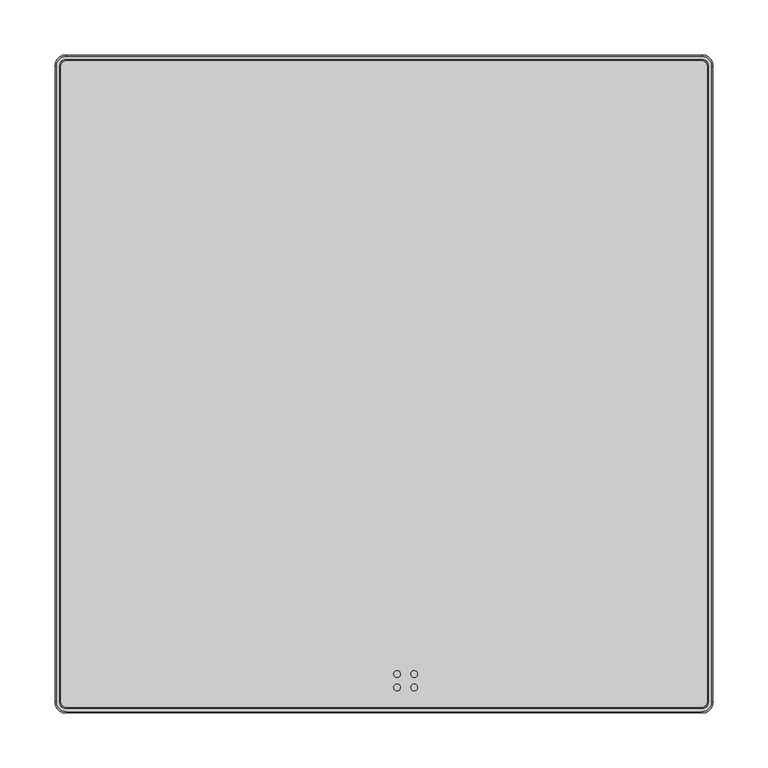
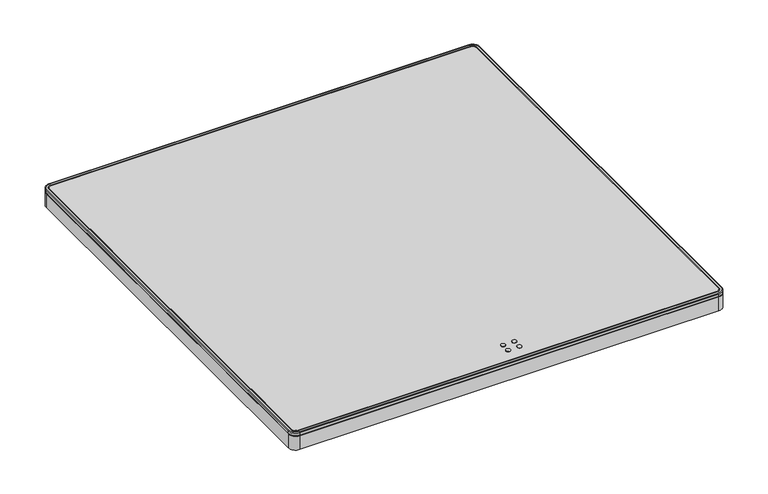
"""IFC4 building model written with IfcOpenShell, lengths in millimetres: proxy geometry, Glas-Kochfläche-6fach eingefasst-Kante : 576  x 516."""

import ifcopenshell
import ifcopenshell.guid

model = None  # the IFC model being written
_history = None  # IfcOwnerHistory: only IFC2X3 demands one
_inside = {}  # id of a spatial element -> (the spatial element, [elements in it])
_under = {}  # id of a project, library or spatial element -> (it, [spatial elements below it])
_declared = {}  # id of a project -> (the project, [libraries it declares])
_typed = {}  # id of a type object -> (the type object, [elements of that type])
_made_of = {}  # id of a material, layer set ... -> (it, [elements and type objects made of it])


def new_model(schema):
    """Start an empty IFC model of exactly this schema.

    Asked for "IFC4X3", IfcOpenShell would pick the latest addendum, in which some entities
    have other attributes; the version numbers below select the first issue.
    IFC2X3 requires an IfcOwnerHistory on every rooted entity: one is made here for all.
    """
    global model, _history
    if schema == "IFC4X3":
        model = ifcopenshell.file(schema_version=(4, 3, 0, 0))
    else:
        model = ifcopenshell.file(schema=schema)
    _inside.clear()
    _under.clear()
    _declared.clear()
    _typed.clear()
    _made_of.clear()
    _history = None
    if model.schema == "IFC2X3":
        org = make("IfcOrganization", Name="unknown")
        user = make(
            "IfcPersonAndOrganization",
            ThePerson=make("IfcPerson", FamilyName="unknown"),
            TheOrganization=org,
        )
        app = make(
            "IfcApplication",
            ApplicationDeveloper=org,
            Version="unknown",
            ApplicationFullName="unknown",
            ApplicationIdentifier="unknown",
        )
        _history = make(
            "IfcOwnerHistory",
            OwningUser=user,
            OwningApplication=app,
            ChangeAction="ADDED",
            CreationDate=0,
        )
    return model


def make(cls, **values):
    """One entity of the class cls with the attributes given. An attribute that is None is left unset."""
    return model.create_entity(
        cls, **{name: value for name, value in values.items() if value is not None}
    )


def rooted(cls, **values):
    """An entity with a GlobalId (a new one), such as an element, a storey or a relation."""
    return make(cls, GlobalId=ifcopenshell.guid.new(), OwnerHistory=_history, **values)


def si_unit(unit_type, name, prefix=None):
    """IfcSIUnit, for example si_unit("LENGTHUNIT", "METRE", prefix="MILLI")."""
    return make("IfcSIUnit", UnitType=unit_type, Prefix=prefix, Name=name)


def assignment(units):
    """IfcUnitAssignment: the units of a project."""
    return None if units is None else make("IfcUnitAssignment", Units=units)


def point(xyz):
    """IfcCartesianPoint."""
    return None if xyz is None else make("IfcCartesianPoint", Coordinates=xyz)


def direction(xyz):
    """IfcDirection."""
    return None if xyz is None else make("IfcDirection", DirectionRatios=xyz)


def frame(location, z_axis=None, x_axis=None):
    """IfcAxis2Placement3D, a coordinate frame: its origin and axes. An axis left out is left unset."""
    return make(
        "IfcAxis2Placement3D",
        Location=point(location),
        Axis=direction(z_axis),
        RefDirection=direction(x_axis),
    )


def frame_2d(location, x_axis=None):
    """IfcAxis2Placement2D, a coordinate frame in the plane: its origin and x axis."""
    return make(
        "IfcAxis2Placement2D", Location=point(location), RefDirection=direction(x_axis)
    )


def origin():
    """The frame at (0, 0, 0) with its axes left unset."""
    return frame((0.0, 0.0, 0.0))


def origin_with_axes():
    """The frame at (0, 0, 0) with the z axis (0, 0, 1) and the x axis (1, 0, 0) written out."""
    return frame((0.0, 0.0, 0.0), z_axis=(0.0, 0.0, 1.0), x_axis=(1.0, 0.0, 0.0))


def place(relative_to, where):
    """IfcLocalPlacement: puts the frame where relative to a parent placement (None: the world)."""
    return make(
        "IfcLocalPlacement", PlacementRelTo=relative_to, RelativePlacement=where
    )


def context(
    kind, dimensions, precision=None, world=None, true_north=None, identifier=None
):
    """IfcGeometricRepresentationContext, for example the 3D "Model" context."""
    return make(
        "IfcGeometricRepresentationContext",
        ContextIdentifier=identifier,
        ContextType=kind,
        CoordinateSpaceDimension=dimensions,
        Precision=precision,
        WorldCoordinateSystem=world,
        TrueNorth=true_north,
    )


def project(units=None, contexts=None):
    """IfcProject with its units and contexts."""
    return rooted(
        "IfcProject",
        Name="project",
        RepresentationContexts=contexts,
        UnitsInContext=assignment(units),
    )


def spatial(cls, under=None, at=None, **own):
    """A site, building, storey or space (cls), placed at a placement, below another one or the project."""
    s = rooted(cls, ObjectPlacement=at, **own)
    if under is not None:
        _under.setdefault(under.id(), (under, []))[1].append(s)
    return s


def polyline(points):
    """IfcPolyline through the points."""
    return make("IfcPolyline", Points=[point(p) for p in points])


def circle_curve(where, radius):
    """IfcCircle in the frame where."""
    return make("IfcCircle", Position=where, Radius=radius)


def ellipse_curve(where, semi_axis1, semi_axis2):
    """IfcEllipse in the frame where."""
    return make(
        "IfcEllipse", Position=where, SemiAxis1=semi_axis1, SemiAxis2=semi_axis2
    )


def trimmed(basis, trim1, trim2, sense, master):
    """IfcTrimmedCurve: the piece of a basis curve between two trims."""
    return make(
        "IfcTrimmedCurve",
        BasisCurve=basis,
        Trim1=trim1,
        Trim2=trim2,
        SenseAgreement=sense,
        MasterRepresentation=master,
    )


def segment(curve, same_sense, transition):
    """IfcCompositeCurveSegment."""
    return make(
        "IfcCompositeCurveSegment",
        Transition=transition,
        SameSense=same_sense,
        ParentCurve=curve,
    )


def composite_curve(segments, self_intersect=None):
    """IfcCompositeCurve: segments joined end to end."""
    return make("IfcCompositeCurve", Segments=segments, SelfIntersect=self_intersect)


def outline(outer, holes=None, kind="AREA"):
    """IfcArbitraryClosedProfileDef: a profile drawn as a closed curve; with holes, ...WithVoids."""
    if holes is None:
        return make("IfcArbitraryClosedProfileDef", ProfileType=kind, OuterCurve=outer)
    return make(
        "IfcArbitraryProfileDefWithVoids",
        ProfileType=kind,
        OuterCurve=outer,
        InnerCurves=holes,
    )


def extrude(swept, where, along, depth):
    """IfcExtrudedAreaSolid: the profile swept, set in the frame where, extruded along a direction by depth."""
    return make(
        "IfcExtrudedAreaSolid",
        SweptArea=swept,
        Position=where,
        ExtrudedDirection=direction(along),
        Depth=depth,
    )


def shape(context_of_items, identifier, shape_type, items):
    """IfcShapeRepresentation: the items that make up one representation, for example the "Body"."""
    return make(
        "IfcShapeRepresentation",
        ContextOfItems=context_of_items,
        RepresentationIdentifier=identifier,
        RepresentationType=shape_type,
        Items=items,
    )


def source(mapping_origin, context_of_items, identifier, shape_type, items):
    """IfcRepresentationMap: a shape defined once, which mapped items show again and again."""
    return make(
        "IfcRepresentationMap",
        MappingOrigin=mapping_origin,
        MappedRepresentation=shape(context_of_items, identifier, shape_type, items),
    )


def transform(
    local_origin,
    x_axis=None,
    y_axis=None,
    z_axis=None,
    scale=None,
    scale2=None,
    scale3=None,
    uniform=True,
):
    """IfcCartesianTransformationOperator3D, or its non-uniform kind. x_axis, y_axis, z_axis: its Axis1, 2, 3."""
    if uniform:
        return make(
            "IfcCartesianTransformationOperator3D",
            Axis1=direction(x_axis),
            Axis2=direction(y_axis),
            LocalOrigin=point(local_origin),
            Scale=scale,
            Axis3=direction(z_axis),
        )
    return make(
        "IfcCartesianTransformationOperator3DnonUniform",
        Axis1=direction(x_axis),
        Axis2=direction(y_axis),
        LocalOrigin=point(local_origin),
        Scale=scale,
        Axis3=direction(z_axis),
        Scale2=scale2,
        Scale3=scale3,
    )


def mapped(mapping_source, mapping_target):
    """IfcMappedItem: shows the shape of a source again, moved by a transform."""
    return make(
        "IfcMappedItem", MappingSource=mapping_source, MappingTarget=mapping_target
    )


def made_of(thing, what):
    """Note that an element or type object is made of a material, layer set ...; save() writes the relation."""
    if what is not None:
        _made_of.setdefault(what.id(), (what, []))[1].append(thing)
    return thing


def element(
    cls,
    number,
    at=None,
    inside=None,
    cuts=None,
    type_object=None,
    material=None,
    context=None,
    identifier="Body",
    shape_type=None,
    held_by="IfcProductDefinitionShape",
    body=None,
    shapes=None,
    **own,
):
    """One element of the class cls, such as IfcWall. Its Tag is "e" and its number.

    at: its placement. inside: the storey or other place that contains it. cuts: it is an
    opening in that element (IfcRelVoidsElement). A single representation is given by context,
    identifier, shape_type and body (its items); several are given by shapes. held_by: the class
    of the entity that holds the representations. save() writes the other relations.
    """
    e = rooted(cls, Tag="e%d" % number, ObjectPlacement=at, **own)
    if body is not None:
        shapes = [shape(context, identifier, shape_type, body)]
    if shapes is not None:
        e.Representation = make(held_by, Representations=shapes)
    if inside is not None:
        _inside.setdefault(inside.id(), (inside, []))[1].append(e)
    if cuts is not None:
        rooted(
            "IfcRelVoidsElement", RelatingBuildingElement=cuts, RelatedOpeningElement=e
        )
    if type_object is not None:
        _typed.setdefault(type_object.id(), (type_object, []))[1].append(e)
    return made_of(e, material)


def aggregate(whole, parts):
    """IfcRelAggregates: a whole, such as a stair, and the parts it consists of."""
    return rooted("IfcRelAggregates", RelatingObject=whole, RelatedObjects=parts)


def save(model, path):
    """Write the relations noted so far, then the file.

    IfcRelAggregates (storeys below a building ...), IfcRelContainedInSpatialStructure (elements
    in a storey), IfcRelDefinesByType, IfcRelAssociatesMaterial and IfcRelDeclares: one each for
    every whole, place, type object, material and project.
    """
    for whole, parts in _under.values():
        aggregate(whole, parts)
    for where, things in _inside.values():
        rooted(
            "IfcRelContainedInSpatialStructure",
            RelatedElements=things,
            RelatingStructure=where,
        )
    for kind, things in _typed.values():
        rooted("IfcRelDefinesByType", RelatedObjects=things, RelatingType=kind)
    for what, things in _made_of.values():
        rooted("IfcRelAssociatesMaterial", RelatedObjects=things, RelatingMaterial=what)
    for by, libraries in _declared.values():
        rooted("IfcRelDeclares", RelatingContext=by, RelatedDefinitions=libraries)
    model.write(path)


def plane_surface(at):
    """IfcPlane: the flat surface through the origin of the frame at, square to its z axis."""
    return make("IfcPlane", Position=at)


def cylinder_surface(at, radius):
    """IfcCylindricalSurface: all points at the distance radius from the z axis of the frame at."""
    return make("IfcCylindricalSurface", Position=at, Radius=radius)


def revolved_surface(curve, axis_point, axis_direction):
    """IfcSurfaceOfRevolution: the curve turned about the line through axis_point along axis_direction."""
    return make(
        "IfcSurfaceOfRevolution",
        SweptCurve=make("IfcArbitraryOpenProfileDef", ProfileType="CURVE", Curve=curve),
        AxisPosition=make("IfcAxis1Placement", Location=point(axis_point), Axis=direction(axis_direction)),
    )


def advanced_brep(points, edges, surfaces, faces):
    """IfcAdvancedBrep: a solid bounded by faces that lie on surfaces and meet in shared edges.

    An edge is (start, end): straight between two places in points (the first is 0);
    or (start, end, curve); or (start, end, curve, False) where it runs against its curve.
    A face is (place in surfaces, loops), or (place, loops, False) where it looks against
    its surface's normal. A loop lists edges by number (the first is 1), with a minus sign
    where the edge is run from its end to its start. The first loop is the outer one.
    """
    corners = [point(p) for p in points]
    vertices = [make("IfcVertexPoint", VertexGeometry=c) for c in corners]
    made = []
    for start, end, *more in edges:
        made.append(
            make(
                "IfcEdgeCurve",
                EdgeStart=vertices[start],
                EdgeEnd=vertices[end],
                EdgeGeometry=more[0] if more else make("IfcPolyline", Points=[corners[start], corners[end]]),
                SameSense=more[1] if len(more) > 1 else True,
            )
        )
    hull = []
    for where, loops, *sense in faces:
        bounds = []
        for j, loop in enumerate(loops):
            ring = [make("IfcOrientedEdge", EdgeElement=made[abs(k) - 1], Orientation=k > 0) for k in loop]
            bounds.append(
                make(
                    "IfcFaceOuterBound" if j == 0 else "IfcFaceBound",
                    Bound=make("IfcEdgeLoop", EdgeList=ring),
                    Orientation=True,
                )
            )
        hull.append(make("IfcAdvancedFace", Bounds=bounds, FaceSurface=surfaces[where], SameSense=sense[0] if sense else True))
    return make("IfcAdvancedBrep", Outer=make("IfcClosedShell", CfsFaces=hull))


def electrical_equipment_621d5f77(model_context):
    return source(origin(), model_context, "Body", "SolidModel", [
        extrude(outline(composite_curve([segment(polyline([(288.5, -298.5), (-288.5, -298.5)]), True, "CONTINUOUS"), segment(trimmed(circle_curve(frame_2d((-288.5, -288.5)), 10.0), [point((-288.5, -298.5))], [point((-298.5, -288.5))], False, "CARTESIAN"), True, "CONTINUOUS"), segment(polyline([(-298.5, -288.5), (-298.5, 288.5)]), True, "CONTINUOUS"), segment(trimmed(circle_curve(frame_2d((-288.5, 288.5)), 10.0), [point((-298.5, 288.5))], [point((-288.5, 298.5))], False, "CARTESIAN"), True, "CONTINUOUS"), segment(polyline([(-288.5, 298.5), (288.5, 298.5)]), True, "CONTINUOUS"), segment(trimmed(circle_curve(frame_2d((288.5, 288.5)), 10.0), [point((288.5, 298.5))], [point((298.5, 288.5))], False, "CARTESIAN"), True, "CONTINUOUS"), segment(polyline([(298.5, 288.5), (298.5, -288.5)]), True, "CONTINUOUS"), segment(trimmed(circle_curve(frame_2d((288.5, -288.5)), 10.0), [point((298.5, -288.5))], [point((288.5, -298.5))], False, "CARTESIAN"), True, "CONTINUOUS")], self_intersect=False)), frame((0.0, 0.0, -20.0), z_axis=(0.0, 0.0, 1.0), x_axis=(1.0, 0.0, 0.0)), (0.0, 0.0, 1.0), 20.0),
        advanced_brep(
        [(-298.5, -288.5, 1.0), (-288.5, -298.5, 1.0), (-288.5, -298.5, 4.0), (-298.5, -288.5, 4.0), (-297.5, -288.5, 0.0), (-288.5, -297.5, 0.0), (-293.5, -288.5, 4.0), (-288.5, -293.5, 4.0), (-288.5, -293.5, 0.0), (-293.5, -288.5, 0.0), (-294.5, -288.5, 5.0), (-288.5, -294.5, 5.0), (-288.5, -297.5, 5.0), (-297.5, -288.5, 5.0), (-298.5, 288.5, 4.0), (-298.5, 288.5, 1.0), (-297.5, 288.5, 0.0), (-293.5, 288.5, 0.0), (-293.5, 288.5, 4.0), (-294.5, 288.5, 5.0), (-297.5, 288.5, 5.0), (-288.5, 298.5, 1.0), (-288.5, 298.5, 4.0), (-288.5, 297.5, 0.0), (-288.5, 293.5, 4.0), (-288.5, 293.5, 0.0), (-288.5, 294.5, 5.0), (-288.5, 297.5, 5.0), (288.5, 298.5, 4.0), (288.5, 298.5, 1.0), (288.5, 297.5, 0.0), (288.5, 293.5, 0.0), (288.5, 293.5, 4.0), (288.5, 294.5, 5.0), (288.5, 297.5, 5.0), (298.5, 288.5, 1.0), (298.5, 288.5, 4.0), (297.5, 288.5, 0.0), (293.5, 288.5, 4.0), (293.5, 288.5, 0.0), (294.5, 288.5, 5.0), (297.5, 288.5, 5.0), (298.5, -288.5, 4.0), (298.5, -288.5, 1.0), (297.5, -288.5, 0.0), (293.5, -288.5, 0.0), (293.5, -288.5, 4.0), (294.5, -288.5, 5.0), (297.5, -288.5, 5.0), (288.5, -298.5, 1.0), (288.5, -298.5, 4.0), (288.5, -297.5, 0.0), (288.5, -293.5, 4.0), (288.5, -293.5, 0.0), (288.5, -294.5, 5.0), (288.5, -297.5, 5.0)],
        [
            (0, 1, circle_curve(frame((-288.5, -288.5, 1.0), z_axis=(0.0, 0.0, 1.0), x_axis=(0.0, -1.0, 0.0)), 10.0)),
            (1, 2),
            (2, 3, circle_curve(frame((-288.5, -288.5, 4.0), z_axis=(0.0, 0.0, -1.0), x_axis=(0.0, -1.0, 0.0)), 10.0)),
            (3, 0),
            (4, 5, circle_curve(frame((-288.5, -288.5, 0.0), z_axis=(0.0, 0.0, 1.0), x_axis=(0.0, -1.0, 0.0)), 9.0)),
            (5, 1, circle_curve(frame((-288.5, -297.5, 1.0), z_axis=(-1.0, 0.0, 0.0), x_axis=(0.0, -1.0, 0.0)), 1.0)),
            (0, 4, circle_curve(frame((-297.5, -288.5, 1.0), z_axis=(0.0, -1.0, 0.0), x_axis=(-1.0, 0.0, 0.0)), 1.0)),
            (6, 7, circle_curve(frame((-288.5, -288.5, 4.0), z_axis=(0.0, 0.0, 1.0), x_axis=(0.0, -1.0, 0.0)), 5.0)),
            (7, 8),
            (8, 9, circle_curve(frame((-288.5, -288.5, 0.0), z_axis=(0.0, 0.0, -1.0), x_axis=(0.0, -1.0, 0.0)), 5.0)),
            (9, 6),
            (10, 11, circle_curve(frame((-288.5, -288.5, 5.0), z_axis=(0.0, 0.0, 1.0), x_axis=(0.0, -1.0, 0.0)), 6.0)),
            (11, 7, circle_curve(frame((-288.5, -294.5, 4.0), z_axis=(-1.0, 0.0, 0.0), x_axis=(0.0, -1.0, 0.0)), 1.0)),
            (6, 10, circle_curve(frame((-294.5, -288.5, 4.0), z_axis=(0.0, -1.0, 0.0), x_axis=(-1.0, 0.0, 0.0)), 1.0)),
            (2, 12, circle_curve(frame((-288.5, -297.5, 4.0), z_axis=(-1.0, 0.0, 0.0), x_axis=(0.0, -1.0, 0.0)), 1.0)),
            (12, 13, circle_curve(frame((-288.5, -288.5, 5.0), z_axis=(0.0, 0.0, -1.0), x_axis=(0.0, -1.0, 0.0)), 9.0)),
            (13, 3, circle_curve(frame((-297.5, -288.5, 4.0), z_axis=(0.0, -1.0, 0.0), x_axis=(-1.0, 0.0, 0.0)), 1.0)),
            (3, 14),
            (14, 15),
            (15, 0),
            (15, 16, circle_curve(frame((-297.5, 288.5, 1.0), z_axis=(0.0, -1.0, 0.0), x_axis=(-1.0, 0.0, 0.0)), 1.0)),
            (16, 4),
            (9, 17),
            (17, 18),
            (18, 6),
            (18, 19, circle_curve(frame((-294.5, 288.5, 4.0), z_axis=(0.0, -1.0, 0.0), x_axis=(-1.0, 0.0, 0.0)), 1.0)),
            (19, 10),
            (13, 20),
            (20, 14, circle_curve(frame((-297.5, 288.5, 4.0), z_axis=(0.0, -1.0, 0.0), x_axis=(-1.0, 0.0, 0.0)), 1.0)),
            (21, 15, circle_curve(frame((-288.5, 288.5, 1.0), z_axis=(0.0, 0.0, 1.0), x_axis=(-1.0, 0.0, 0.0)), 10.0)),
            (14, 22, circle_curve(frame((-288.5, 288.5, 4.0), z_axis=(0.0, 0.0, -1.0), x_axis=(-1.0, 0.0, 0.0)), 10.0)),
            (22, 21),
            (23, 16, circle_curve(frame((-288.5, 288.5, 0.0), z_axis=(0.0, 0.0, 1.0), x_axis=(-1.0, 0.0, 0.0)), 9.0)),
            (21, 23, circle_curve(frame((-288.5, 297.5, 1.0), z_axis=(-1.0, 0.0, 0.0), x_axis=(0.0, 1.0, 0.0)), 1.0)),
            (24, 18, circle_curve(frame((-288.5, 288.5, 4.0), z_axis=(0.0, 0.0, 1.0), x_axis=(-1.0, 0.0, 0.0)), 5.0)),
            (17, 25, circle_curve(frame((-288.5, 288.5, 0.0), z_axis=(0.0, 0.0, -1.0), x_axis=(-1.0, 0.0, 0.0)), 5.0)),
            (25, 24),
            (26, 19, circle_curve(frame((-288.5, 288.5, 5.0), z_axis=(0.0, 0.0, 1.0), x_axis=(-1.0, 0.0, 0.0)), 6.0)),
            (24, 26, circle_curve(frame((-288.5, 294.5, 4.0), z_axis=(-1.0, 0.0, 0.0), x_axis=(0.0, 1.0, 0.0)), 1.0)),
            (20, 27, circle_curve(frame((-288.5, 288.5, 5.0), z_axis=(0.0, 0.0, -1.0), x_axis=(-1.0, 0.0, 0.0)), 9.0)),
            (27, 22, circle_curve(frame((-288.5, 297.5, 4.0), z_axis=(-1.0, 0.0, 0.0), x_axis=(0.0, 1.0, 0.0)), 1.0)),
            (22, 28),
            (28, 29),
            (29, 21),
            (29, 30, circle_curve(frame((288.5, 297.5, 1.0), z_axis=(-1.0, 0.0, 0.0), x_axis=(0.0, 1.0, 0.0)), 1.0)),
            (30, 23),
            (25, 31),
            (31, 32),
            (32, 24),
            (32, 33, circle_curve(frame((288.5, 294.5, 4.0), z_axis=(-1.0, 0.0, 0.0), x_axis=(0.0, 1.0, 0.0)), 1.0)),
            (33, 26),
            (27, 34),
            (34, 28, circle_curve(frame((288.5, 297.5, 4.0), z_axis=(-1.0, 0.0, 0.0), x_axis=(0.0, 1.0, 0.0)), 1.0)),
            (35, 29, circle_curve(frame((288.5, 288.5, 1.0), z_axis=(0.0, 0.0, 1.0), x_axis=(0.0, 1.0, 0.0)), 10.0)),
            (28, 36, circle_curve(frame((288.5, 288.5, 4.0), z_axis=(0.0, 0.0, -1.0), x_axis=(0.0, 1.0, 0.0)), 10.0)),
            (36, 35),
            (37, 30, circle_curve(frame((288.5, 288.5, 0.0), z_axis=(0.0, 0.0, 1.0), x_axis=(0.0, 1.0, 0.0)), 9.0)),
            (35, 37, circle_curve(frame((297.5, 288.5, 1.0), z_axis=(0.0, 1.0, 0.0), x_axis=(1.0, 0.0, 0.0)), 1.0)),
            (38, 32, circle_curve(frame((288.5, 288.5, 4.0), z_axis=(0.0, 0.0, 1.0), x_axis=(0.0, 1.0, 0.0)), 5.0)),
            (31, 39, circle_curve(frame((288.5, 288.5, 0.0), z_axis=(0.0, 0.0, -1.0), x_axis=(0.0, 1.0, 0.0)), 5.0)),
            (39, 38),
            (40, 33, circle_curve(frame((288.5, 288.5, 5.0), z_axis=(0.0, 0.0, 1.0), x_axis=(0.0, 1.0, 0.0)), 6.0)),
            (38, 40, circle_curve(frame((294.5, 288.5, 4.0), z_axis=(0.0, 1.0, 0.0), x_axis=(1.0, 0.0, 0.0)), 1.0)),
            (34, 41, circle_curve(frame((288.5, 288.5, 5.0), z_axis=(0.0, 0.0, -1.0), x_axis=(0.0, 1.0, 0.0)), 9.0)),
            (41, 36, circle_curve(frame((297.5, 288.5, 4.0), z_axis=(0.0, 1.0, 0.0), x_axis=(1.0, 0.0, 0.0)), 1.0)),
            (36, 42),
            (42, 43),
            (43, 35),
            (43, 44, circle_curve(frame((297.5, -288.5, 1.0), z_axis=(0.0, 1.0, 0.0), x_axis=(1.0, 0.0, 0.0)), 1.0)),
            (44, 37),
            (39, 45),
            (45, 46),
            (46, 38),
            (46, 47, circle_curve(frame((294.5, -288.5, 4.0), z_axis=(0.0, 1.0, 0.0), x_axis=(1.0, 0.0, 0.0)), 1.0)),
            (47, 40),
            (41, 48),
            (48, 42, circle_curve(frame((297.5, -288.5, 4.0), z_axis=(0.0, 1.0, 0.0), x_axis=(1.0, 0.0, 0.0)), 1.0)),
            (49, 43, circle_curve(frame((288.5, -288.5, 1.0), z_axis=(0.0, 0.0, 1.0), x_axis=(1.0, 0.0, 0.0)), 10.0)),
            (42, 50, circle_curve(frame((288.5, -288.5, 4.0), z_axis=(0.0, 0.0, -1.0), x_axis=(1.0, 0.0, 0.0)), 10.0)),
            (50, 49),
            (51, 44, circle_curve(frame((288.5, -288.5, 0.0), z_axis=(0.0, 0.0, 1.0), x_axis=(1.0, 0.0, 0.0)), 9.0)),
            (49, 51, circle_curve(frame((288.5, -297.5, 1.0), z_axis=(1.0, 0.0, 0.0), x_axis=(0.0, -1.0, 0.0)), 1.0)),
            (52, 46, circle_curve(frame((288.5, -288.5, 4.0), z_axis=(0.0, 0.0, 1.0), x_axis=(1.0, 0.0, 0.0)), 5.0)),
            (45, 53, circle_curve(frame((288.5, -288.5, 0.0), z_axis=(0.0, 0.0, -1.0), x_axis=(1.0, 0.0, 0.0)), 5.0)),
            (53, 52),
            (54, 47, circle_curve(frame((288.5, -288.5, 5.0), z_axis=(0.0, 0.0, 1.0), x_axis=(1.0, 0.0, 0.0)), 6.0)),
            (52, 54, circle_curve(frame((288.5, -294.5, 4.0), z_axis=(1.0, 0.0, 0.0), x_axis=(0.0, -1.0, 0.0)), 1.0)),
            (48, 55, circle_curve(frame((288.5, -288.5, 5.0), z_axis=(0.0, 0.0, -1.0), x_axis=(1.0, 0.0, 0.0)), 9.0)),
            (55, 50, circle_curve(frame((288.5, -297.5, 4.0), z_axis=(1.0, 0.0, 0.0), x_axis=(0.0, -1.0, 0.0)), 1.0)),
            (50, 2),
            (1, 49),
            (5, 51),
            (8, 53),
            (7, 52),
            (11, 54),
            (12, 55),
        ],
        [
            cylinder_surface(frame((-288.5, -288.5, 5.0), z_axis=(0.0, 0.0, -1.0), x_axis=(0.0, -1.0, 0.0)), 10.0),
            revolved_surface(trimmed(ellipse_curve(frame((-288.5, -297.5, 1.0), z_axis=(1.0, 0.0, 0.0), x_axis=(0.0, -1.0, 0.0)), 1.0, 1.0), [point((-288.5, -298.5, 1.0))], [point((-288.5, -297.5, 0.0))], True, "CARTESIAN"), (-288.5, -288.5, 5.0), (0.0, 0.0, -1.0)),
            revolved_surface(polyline([(-288.5, -293.5, 0.0), (-288.5, -293.5, 4.0)]), (-288.5, -288.5, 5.0), (0.0, 0.0, -1.0)),
            revolved_surface(trimmed(ellipse_curve(frame((-288.5, -294.5, 4.0), z_axis=(1.0, 0.0, 0.0), x_axis=(0.0, -1.0, 0.0)), 1.0, 1.0), [point((-288.5, -293.5, 4.0))], [point((-288.5, -294.5, 5.0))], True, "CARTESIAN"), (-288.5, -288.5, 5.0), (0.0, 0.0, -1.0)),
            revolved_surface(trimmed(ellipse_curve(frame((-288.5, -297.5, 4.0), z_axis=(1.0, 0.0, 0.0), x_axis=(0.0, -1.0, 0.0)), 1.0, 1.0), [point((-288.5, -297.5, 5.0))], [point((-288.5, -298.5, 4.0))], True, "CARTESIAN"), (-288.5, -288.5, 5.0), (0.0, 0.0, -1.0)),
            plane_surface(frame((-298.5, -288.5, 4.0), z_axis=(-1.0, 0.0, 0.0), x_axis=(0.0, 1.0, 0.0))),
            cylinder_surface(frame((-297.5, -288.5, 1.0), z_axis=(0.0, -1.0, 0.0), x_axis=(-1.0, 0.0, 0.0)), 1.0),
            plane_surface(frame((-293.5, -288.5, 0.0), z_axis=(1.0, 0.0, 0.0), x_axis=(0.0, 1.0, 0.0))),
            cylinder_surface(frame((-294.5, -288.5, 4.0), z_axis=(0.0, -1.0, 0.0), x_axis=(-1.0, 0.0, 0.0)), 1.0),
            cylinder_surface(frame((-297.5, -288.5, 4.0), z_axis=(0.0, -1.0, 0.0), x_axis=(-1.0, 0.0, 0.0)), 1.0),
            cylinder_surface(frame((-288.5, 288.5, 5.0), z_axis=(0.0, 0.0, -1.0), x_axis=(-1.0, 0.0, 0.0)), 10.0),
            revolved_surface(trimmed(ellipse_curve(frame((-297.5, 288.5, 1.0), z_axis=(0.0, -1.0, 0.0), x_axis=(-1.0, 0.0, 0.0)), 1.0, 1.0), [point((-298.5, 288.5, 1.0))], [point((-297.5, 288.5, 0.0))], True, "CARTESIAN"), (-288.5, 288.5, 5.0), (0.0, 0.0, -1.0)),
            revolved_surface(polyline([(-293.5, 288.5, 0.0), (-293.5, 288.5, 4.0)]), (-288.5, 288.5, 5.0), (0.0, 0.0, -1.0)),
            revolved_surface(trimmed(ellipse_curve(frame((-294.5, 288.5, 4.0), z_axis=(0.0, -1.0, 0.0), x_axis=(-1.0, 0.0, 0.0)), 1.0, 1.0), [point((-293.5, 288.5, 4.0))], [point((-294.5, 288.5, 5.0))], True, "CARTESIAN"), (-288.5, 288.5, 5.0), (0.0, 0.0, -1.0)),
            revolved_surface(trimmed(ellipse_curve(frame((-297.5, 288.5, 4.0), z_axis=(0.0, -1.0, 0.0), x_axis=(-1.0, 0.0, 0.0)), 1.0, 1.0), [point((-297.5, 288.5, 5.0))], [point((-298.5, 288.5, 4.0))], True, "CARTESIAN"), (-288.5, 288.5, 5.0), (0.0, 0.0, -1.0)),
            plane_surface(frame((-288.5, 298.5, 4.0), z_axis=(0.0, 1.0, 0.0), x_axis=(1.0, 0.0, 0.0))),
            cylinder_surface(frame((-288.5, 297.5, 1.0), z_axis=(-1.0, 0.0, 0.0), x_axis=(0.0, 1.0, 0.0)), 1.0),
            plane_surface(frame((-288.5, 293.5, 0.0), z_axis=(0.0, -1.0, 0.0), x_axis=(1.0, 0.0, 0.0))),
            cylinder_surface(frame((-288.5, 294.5, 4.0), z_axis=(-1.0, 0.0, 0.0), x_axis=(0.0, 1.0, 0.0)), 1.0),
            cylinder_surface(frame((-288.5, 297.5, 4.0), z_axis=(-1.0, 0.0, 0.0), x_axis=(0.0, 1.0, 0.0)), 1.0),
            cylinder_surface(frame((288.5, 288.5, 5.0), z_axis=(0.0, 0.0, -1.0), x_axis=(0.0, 1.0, 0.0)), 10.0),
            revolved_surface(trimmed(ellipse_curve(frame((288.5, 297.5, 1.0), z_axis=(-1.0, 0.0, 0.0), x_axis=(0.0, 1.0, 0.0)), 1.0, 1.0), [point((288.5, 298.5, 1.0))], [point((288.5, 297.5, 0.0))], True, "CARTESIAN"), (288.5, 288.5, 5.0), (0.0, 0.0, -1.0)),
            revolved_surface(polyline([(288.5, 293.5, 0.0), (288.5, 293.5, 4.0)]), (288.5, 288.5, 5.0), (0.0, 0.0, -1.0)),
            revolved_surface(trimmed(ellipse_curve(frame((288.5, 294.5, 4.0), z_axis=(-1.0, 0.0, 0.0), x_axis=(0.0, 1.0, 0.0)), 1.0, 1.0), [point((288.5, 293.5, 4.0))], [point((288.5, 294.5, 5.0))], True, "CARTESIAN"), (288.5, 288.5, 5.0), (0.0, 0.0, -1.0)),
            revolved_surface(trimmed(ellipse_curve(frame((288.5, 297.5, 4.0), z_axis=(-1.0, 0.0, 0.0), x_axis=(0.0, 1.0, 0.0)), 1.0, 1.0), [point((288.5, 297.5, 5.0))], [point((288.5, 298.5, 4.0))], True, "CARTESIAN"), (288.5, 288.5, 5.0), (0.0, 0.0, -1.0)),
            plane_surface(frame((298.5, 288.5, 4.0), z_axis=(1.0, 0.0, 0.0), x_axis=(0.0, -1.0, 0.0))),
            cylinder_surface(frame((297.5, 288.5, 1.0), z_axis=(0.0, 1.0, 0.0), x_axis=(1.0, 0.0, 0.0)), 1.0),
            plane_surface(frame((293.5, 288.5, 0.0), z_axis=(-1.0, 0.0, 0.0), x_axis=(0.0, -1.0, 0.0))),
            cylinder_surface(frame((294.5, 288.5, 4.0), z_axis=(0.0, 1.0, 0.0), x_axis=(1.0, 0.0, 0.0)), 1.0),
            cylinder_surface(frame((297.5, 288.5, 4.0), z_axis=(0.0, 1.0, 0.0), x_axis=(1.0, 0.0, 0.0)), 1.0),
            cylinder_surface(frame((288.5, -288.5, 5.0), z_axis=(0.0, 0.0, -1.0), x_axis=(1.0, 0.0, 0.0)), 10.0),
            revolved_surface(trimmed(ellipse_curve(frame((297.5, -288.5, 1.0), z_axis=(0.0, 1.0, 0.0), x_axis=(1.0, 0.0, 0.0)), 1.0, 1.0), [point((298.5, -288.5, 1.0))], [point((297.5, -288.5, 0.0))], True, "CARTESIAN"), (288.5, -288.5, 5.0), (0.0, 0.0, -1.0)),
            revolved_surface(polyline([(293.5, -288.5, 0.0), (293.5, -288.5, 4.0)]), (288.5, -288.5, 5.0), (0.0, 0.0, -1.0)),
            revolved_surface(trimmed(ellipse_curve(frame((294.5, -288.5, 4.0), z_axis=(0.0, 1.0, 0.0), x_axis=(1.0, 0.0, 0.0)), 1.0, 1.0), [point((293.5, -288.5, 4.0))], [point((294.5, -288.5, 5.0))], True, "CARTESIAN"), (288.5, -288.5, 5.0), (0.0, 0.0, -1.0)),
            revolved_surface(trimmed(ellipse_curve(frame((297.5, -288.5, 4.0), z_axis=(0.0, 1.0, 0.0), x_axis=(1.0, 0.0, 0.0)), 1.0, 1.0), [point((297.5, -288.5, 5.0))], [point((298.5, -288.5, 4.0))], True, "CARTESIAN"), (288.5, -288.5, 5.0), (0.0, 0.0, -1.0)),
            plane_surface(frame((288.5, -298.5, 4.0), z_axis=(0.0, -1.0, 0.0), x_axis=(-1.0, 0.0, 0.0))),
            cylinder_surface(frame((288.5, -297.5, 1.0), z_axis=(1.0, 0.0, 0.0), x_axis=(0.0, -1.0, 0.0)), 1.0),
            plane_surface(frame((288.5, -297.5, 0.0), z_axis=(0.0, 0.0, -1.0), x_axis=(-1.0, 0.0, 0.0))),
            plane_surface(frame((288.5, -293.5, 0.0), z_axis=(0.0, 1.0, 0.0), x_axis=(-1.0, 0.0, 0.0))),
            cylinder_surface(frame((288.5, -294.5, 4.0), z_axis=(1.0, 0.0, 0.0), x_axis=(0.0, -1.0, 0.0)), 1.0),
            plane_surface(frame((288.5, -294.5, 5.0), z_axis=(0.0, 0.0, 1.0), x_axis=(-1.0, 0.0, 0.0))),
            cylinder_surface(frame((288.5, -297.5, 4.0), z_axis=(1.0, 0.0, 0.0), x_axis=(0.0, -1.0, 0.0)), 1.0),
        ],
        [
            (0, [[1, 2, 3, 4]]),
            (1, [[5, 6, -1, 7]]),
            (2, [[8, 9, 10, 11]]),
            (3, [[12, 13, -8, 14]]),
            (4, [[-3, 15, 16, 17]]),
            (5, [[-4, 18, 19, 20]]),
            (6, [[-7, -20, 21, 22]]),
            (7, [[-11, 23, 24, 25]]),
            (8, [[-14, -25, 26, 27]]),
            (9, [[-17, 28, 29, -18]]),
            (10, [[30, -19, 31, 32]]),
            (11, [[33, -21, -30, 34]]),
            (12, [[35, -24, 36, 37]]),
            (13, [[38, -26, -35, 39]]),
            (14, [[-31, -29, 40, 41]]),
            (15, [[-32, 42, 43, 44]]),
            (16, [[-34, -44, 45, 46]]),
            (17, [[-37, 47, 48, 49]]),
            (18, [[-39, -49, 50, 51]]),
            (19, [[-41, 52, 53, -42]]),
            (20, [[54, -43, 55, 56]]),
            (21, [[57, -45, -54, 58]]),
            (22, [[59, -48, 60, 61]]),
            (23, [[62, -50, -59, 63]]),
            (24, [[-55, -53, 64, 65]]),
            (25, [[-56, 66, 67, 68]]),
            (26, [[-58, -68, 69, 70]]),
            (27, [[-61, 71, 72, 73]]),
            (28, [[-63, -73, 74, 75]]),
            (29, [[-65, 76, 77, -66]]),
            (30, [[78, -67, 79, 80]]),
            (31, [[81, -69, -78, 82]]),
            (32, [[83, -72, 84, 85]]),
            (33, [[86, -74, -83, 87]]),
            (34, [[-79, -77, 88, 89]]),
            (35, [[-80, 90, -2, 91]]),
            (36, [[-82, -91, -6, 92]]),
            (37, [[-70, -81, -92, -5, -22, -33, -46, -57], [93, -84, -71, -60, -47, -36, -23, -10]]),
            (38, [[-85, -93, -9, 94]]),
            (39, [[-87, -94, -13, 95]]),
            (40, [[96, -88, -76, -64, -52, -40, -28, -16], [-75, -86, -95, -12, -27, -38, -51, -62]]),
            (41, [[-89, -96, -15, -90]]),
        ],
    ),
        extrude(outline(composite_curve([segment(trimmed(circle_curve(frame_2d((11.8682418, -263.3148872)), 3.0), [point((11.8682418, -260.3148872))], [point((11.8682418, -266.3148872))], False, "CARTESIAN"), True, "CONTINUOUS"), segment(trimmed(circle_curve(frame_2d((11.8682418, -263.3148872)), 3.0), [point((11.8682418, -266.3148872))], [point((11.8682418, -260.3148872))], False, "CARTESIAN"), True, "CONTINUOUS")], self_intersect=False)), frame((0.0, 0.0, 4.5), z_axis=(0.0, 0.0, 1.0), x_axis=(1.0, 0.0, 0.0)), (0.0, 0.0, 1.0), 1.0),
        extrude(outline(composite_curve([segment(trimmed(circle_curve(frame_2d((27.3817582, -263.3148872)), 3.0), [point((27.3817582, -260.3148872))], [point((27.3817582, -266.3148872))], False, "CARTESIAN"), True, "CONTINUOUS"), segment(trimmed(circle_curve(frame_2d((27.3817582, -263.3148872)), 3.0), [point((27.3817582, -266.3148872))], [point((27.3817582, -260.3148872))], False, "CARTESIAN"), True, "CONTINUOUS")], self_intersect=False)), frame((0.0, 0.0, 4.5), z_axis=(0.0, 0.0, 1.0), x_axis=(1.0, 0.0, 0.0)), (0.0, 0.0, 1.0), 1.0),
        extrude(outline(composite_curve([segment(trimmed(circle_curve(frame_2d((11.8682418, -275.3691327)), 3.0), [point((11.8682418, -272.3691327))], [point((11.8682418, -278.3691327))], False, "CARTESIAN"), True, "CONTINUOUS"), segment(trimmed(circle_curve(frame_2d((11.8682418, -275.3691327)), 3.0), [point((11.8682418, -278.3691327))], [point((11.8682418, -272.3691327))], False, "CARTESIAN"), True, "CONTINUOUS")], self_intersect=False)), frame((0.0, 0.0, 4.5), z_axis=(0.0, 0.0, 1.0), x_axis=(1.0, 0.0, 0.0)), (0.0, 0.0, 1.0), 1.0),
        extrude(outline(composite_curve([segment(trimmed(circle_curve(frame_2d((27.3817582, -275.3691327)), 3.0), [point((27.3817582, -272.3691327))], [point((27.3817582, -278.3691327))], False, "CARTESIAN"), True, "CONTINUOUS"), segment(trimmed(circle_curve(frame_2d((27.3817582, -275.3691327)), 3.0), [point((27.3817582, -278.3691327))], [point((27.3817582, -272.3691327))], False, "CARTESIAN"), True, "CONTINUOUS")], self_intersect=False)), frame((0.0, 0.0, 4.5), z_axis=(0.0, 0.0, 1.0), x_axis=(1.0, 0.0, 0.0)), (0.0, 0.0, 1.0), 1.0),
        extrude(outline(composite_curve([segment(trimmed(circle_curve(frame_2d((-288.5, -288.5)), 5.0), [point((-288.5, -293.5))], [point((-293.5, -288.5))], False, "CARTESIAN"), True, "CONTINUOUS"), segment(polyline([(-293.5, -288.5), (-293.5, 288.5)]), True, "CONTINUOUS"), segment(trimmed(circle_curve(frame_2d((-288.5, 288.5)), 5.0), [point((-293.5, 288.5))], [point((-288.5, 293.5))], False, "CARTESIAN"), True, "CONTINUOUS"), segment(polyline([(-288.5, 293.5), (288.5, 293.5)]), True, "CONTINUOUS"), segment(trimmed(circle_curve(frame_2d((288.5, 288.5)), 5.0), [point((288.5, 293.5))], [point((293.5, 288.5))], False, "CARTESIAN"), True, "CONTINUOUS"), segment(polyline([(293.5, 288.5), (293.5, -288.5)]), True, "CONTINUOUS"), segment(trimmed(circle_curve(frame_2d((288.5, -288.5)), 5.0), [point((293.5, -288.5))], [point((288.5, -293.5))], False, "CARTESIAN"), True, "CONTINUOUS"), segment(polyline([(288.5, -293.5), (-288.5, -293.5)]), True, "CONTINUOUS")], self_intersect=False)), origin_with_axes(), (0.0, 0.0, 1.0), 5.0),
    ])


if __name__ == "__main__":
    model = new_model("IFC4")
    model_context = context("Model", 3, world=origin())
    ifc_project = project(units=[si_unit("LENGTHUNIT", "METRE", prefix="MILLI")], contexts=[model_context])
    site = spatial("IfcSite", under=ifc_project)
    building = spatial("IfcBuilding", under=site)
    placement = place(None, origin())
    electrical_equipment_shape = electrical_equipment_621d5f77(model_context)
    element("IfcBuildingElementProxy", 1, Name="Glas-Kochfläche-6fach eingefasst-Kante : 576  x 516", ObjectType="Glas-Kochfläche-6fach eingefasst-Kante : 576  x 516", at=placement, inside=building, context=model_context, shape_type="MappedRepresentation", body=[
        mapped(electrical_equipment_shape, transform((0.0, 0.0, 0.0), x_axis=(1.0, 0.0, 0.0), y_axis=(0.0, 1.0, 0.0), z_axis=(0.0, 0.0, 1.0))),
    ])
    save(model, "model.ifc")
